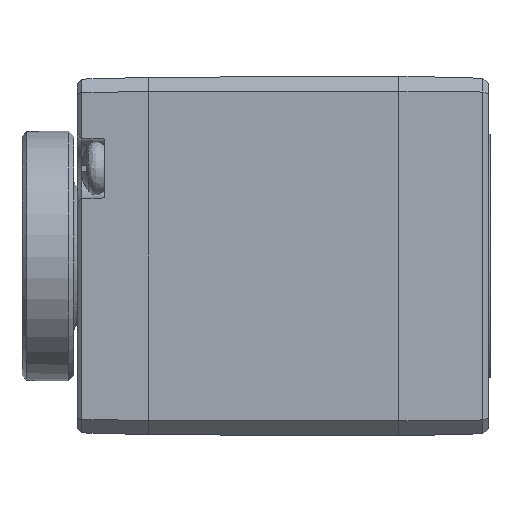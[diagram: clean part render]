
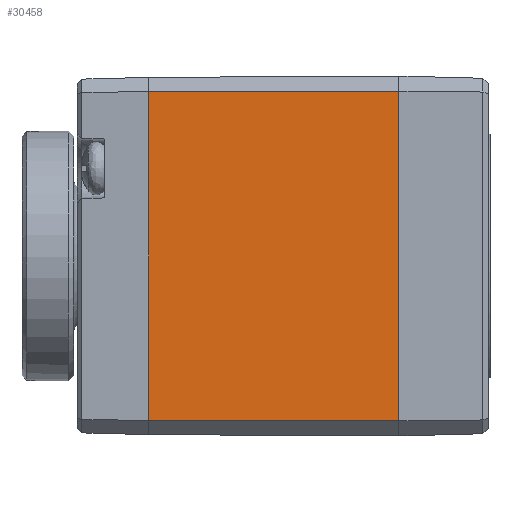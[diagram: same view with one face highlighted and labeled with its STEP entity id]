
A CAD part, front view. The second image highlights one B-rep face of the part: STEP entity #30458.
In plain terms, the highlighted planar face has unit normal (-0.005, -1, 0).
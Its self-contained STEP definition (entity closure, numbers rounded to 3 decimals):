
#111 = VECTOR ( 'NONE', #26794, 1000. ) ;
#382 = VERTEX_POINT ( 'NONE', #22314 ) ;
#2796 = AXIS2_PLACEMENT_3D ( 'NONE', #15571, #33529, #27900 ) ;
#2798 = ORIENTED_EDGE ( 'NONE', *, *, #35603, .F. ) ;
#3287 = VERTEX_POINT ( 'NONE', #36808 ) ;
#4203 = EDGE_CURVE ( 'NONE', #14455, #3287, #29405, .T. ) ;
#6826 = ORIENTED_EDGE ( 'NONE', *, *, #4203, .T. ) ;
#7076 = LINE ( 'NONE', #19366, #12950 ) ;
#8924 = FACE_OUTER_BOUND ( 'NONE', #36902, .T. ) ;
#10288 = CARTESIAN_POINT ( 'NONE',  ( 5.72, -20.982, -8.587 ) ) ;
#11449 = CARTESIAN_POINT ( 'NONE',  ( -8.28, -20.908, -8.587 ) ) ;
#11612 = CARTESIAN_POINT ( 'NONE',  ( 5.72, -20.982, 9.843 ) ) ;
#12950 = VECTOR ( 'NONE', #34705, 1000. ) ;
#13282 = VECTOR ( 'NONE', #21493, 1000. ) ;
#14455 = VERTEX_POINT ( 'NONE', #11612 ) ;
#14613 = ORIENTED_EDGE ( 'NONE', *, *, #32806, .F. ) ;
#15534 = VECTOR ( 'NONE', #22190, 1000. ) ;
#15571 = CARTESIAN_POINT ( 'NONE',  ( -8.28, -20.908, -8.587 ) ) ;
#15641 = CARTESIAN_POINT ( 'NONE',  ( -8.28, -20.908, 9.813 ) ) ;
#16538 = LINE ( 'NONE', #10288, #15534 ) ;
#19366 = CARTESIAN_POINT ( 'NONE',  ( -8.282, -20.908, -8.587 ) ) ;
#21214 = PLANE ( 'NONE',  #2796 ) ;
#21485 = EDGE_CURVE ( 'NONE', #24607, #382, #7076, .T. ) ;
#21493 = DIRECTION ( 'NONE',  ( -1., 0.005, -0.002 ) ) ;
#22190 = DIRECTION ( 'NONE',  ( 0., 0., -1. ) ) ;
#22314 = CARTESIAN_POINT ( 'NONE',  ( 5.72, -20.982, -8.617 ) ) ;
#23545 = ORIENTED_EDGE ( 'NONE', *, *, #21485, .T. ) ;
#24607 = VERTEX_POINT ( 'NONE', #32900 ) ;
#26794 = DIRECTION ( 'NONE',  ( 0., 0., 1. ) ) ;
#27900 = DIRECTION ( 'NONE',  ( -1., 0.005, 0. ) ) ;
#29405 = LINE ( 'NONE', #15641, #13282 ) ;
#29420 = LINE ( 'NONE', #11449, #111 ) ;
#30458 = ADVANCED_FACE ( 'NONE', ( #8924 ), #21214, .T. ) ;
#32806 = EDGE_CURVE ( 'NONE', #14455, #382, #16538, .T. ) ;
#32900 = CARTESIAN_POINT ( 'NONE',  ( -8.28, -20.908, -8.587 ) ) ;
#33529 = DIRECTION ( 'NONE',  ( -0.005, -1., 0. ) ) ;
#34705 = DIRECTION ( 'NONE',  ( 1., -0.005, -0.002 ) ) ;
#35603 = EDGE_CURVE ( 'NONE', #24607, #3287, #29420, .T. ) ;
#36808 = CARTESIAN_POINT ( 'NONE',  ( -8.28, -20.908, 9.813 ) ) ;
#36902 = EDGE_LOOP ( 'NONE', ( #14613, #6826, #2798, #23545 ) ) ;
